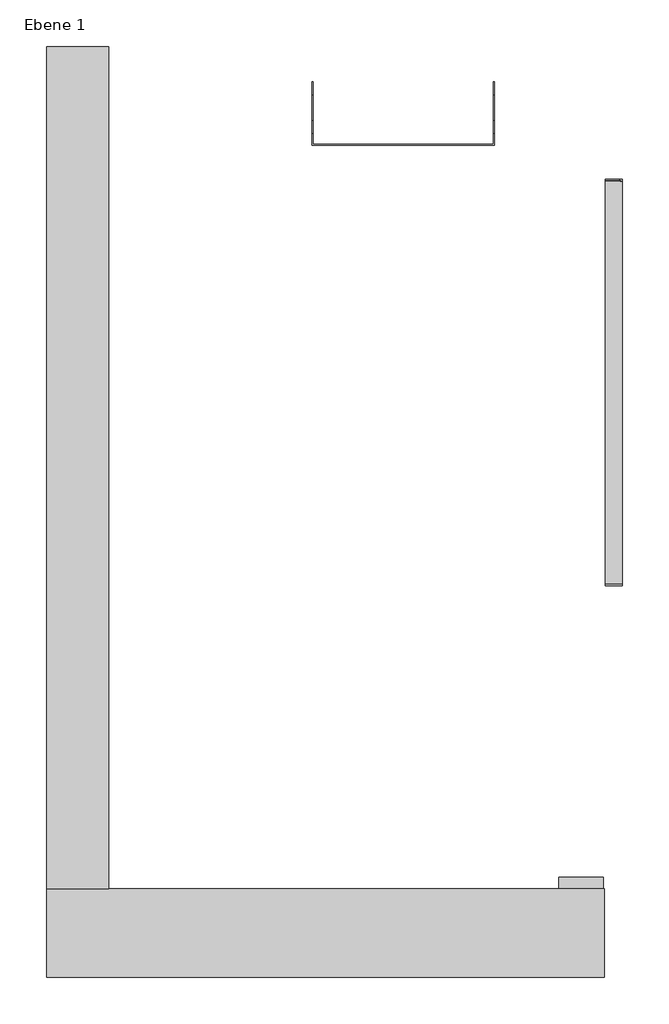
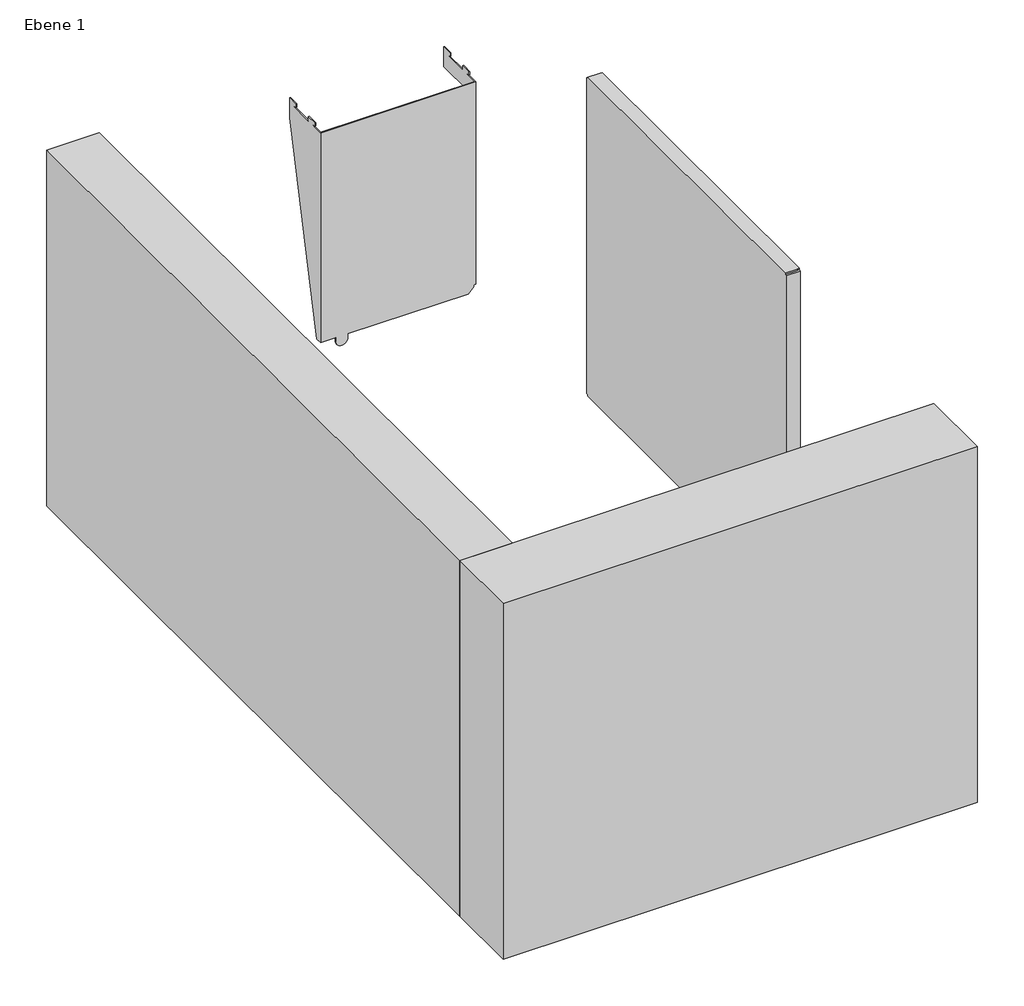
# One storey, incomplete: 5 proxies.
"""IFC4 building model written with IfcOpenShell, lengths in millimetres."""

from ifc_helpers import new_model, si_unit, origin, place, context, project, spatial, transform, mapped, element, save
from components import generic_models_6e9d71cf, generic_models_de27f77d, generic_models_0eea450e, generic_models_fb11fd52, generic_models_26437f6a

model = new_model("IFC4")

# Units and contexts
model_context = context("Model", 3, world=origin())
ifc_project = project(units=[si_unit("LENGTHUNIT", "METRE", prefix="MILLI")], contexts=[model_context])

# Site, building, storey
site = spatial("IfcSite", under=ifc_project)
building = spatial("IfcBuilding", under=site)
storey = spatial("IfcBuildingStorey", under=building, Name="Ebene 1", Elevation=0.0)

# Proxies
placement = place(None, origin())
generic_models_shape = generic_models_6e9d71cf(model_context)
element("IfcBuildingElementProxy", 1, Name="Installationsrahmen_70mm_2025-07-23", ObjectType="Installationsrahmen_70mm_2025-07-23", at=placement, inside=storey, context=model_context, shape_type="MappedRepresentation", body=[
    mapped(generic_models_shape, transform((-70.0, 185.0, 0.0), x_axis=(1.0, 0.0, 0.0), y_axis=(0.0, 1.0, 0.0), z_axis=(0.0, 0.0, 1.0))),
])
generic_models_2_shape = generic_models_de27f77d(model_context)
element("IfcBuildingElementProxy", 2, Name="046253_Strebe_Boden.003", ObjectType="046253_Strebe_Boden.003", at=placement, inside=storey, context=model_context, shape_type="MappedRepresentation", body=[
    mapped(generic_models_2_shape, transform((493.69, -0.6, 0.0), x_axis=(1.0, 0.0, 0.0), y_axis=(0.0, 1.0, 0.0), z_axis=(0.0, 0.0, 1.0))),
])
generic_models_3_shape = generic_models_0eea450e(model_context)
element("IfcBuildingElementProxy", 3, Name="Sockel_100mm_2025-07-23", ObjectType="Sockel_100mm_2025-07-23", at=placement, inside=storey, context=model_context, shape_type="MappedRepresentation", body=[
    mapped(generic_models_3_shape, transform((-70.0, 185.0, 0.0), x_axis=(0.0, -1.0, 0.0), y_axis=(1.0, 0.0, 0.0), z_axis=(0.0, 0.0, 1.0))),
])
generic_models_4_shape = generic_models_fb11fd52(model_context)
element("IfcBuildingElementProxy", 4, Name="Platzhalter_Spuelkammer_Tuer_15.07.25", ObjectType="Platzhalter_Spuelkammer_Tuer_15.07.25", at=placement, inside=storey, context=model_context, shape_type="MappedRepresentation", body=[
    mapped(generic_models_4_shape, transform((580.0, 756.25, -250.0), x_axis=(0.0, 1.0, 0.0), y_axis=(-1.0, 0.0, 0.0), z_axis=(0.0, 0.0, 1.0))),
])
generic_models_5_shape = generic_models_26437f6a(model_context)
element("IfcBuildingElementProxy", 5, Name="046289_Konsole_fuer_Powerteil", ObjectType="046289_Konsole_fuer_Powerteil", at=placement, inside=storey, context=model_context, shape_type="MappedRepresentation", body=[
    mapped(generic_models_5_shape, transform((-1.375, 0.0, 0.0), x_axis=(1.0, 0.0, 0.0), y_axis=(0.0, 1.0, 0.0), z_axis=(0.0, 0.0, 1.0))),
])

save(model, "model.ifc")
